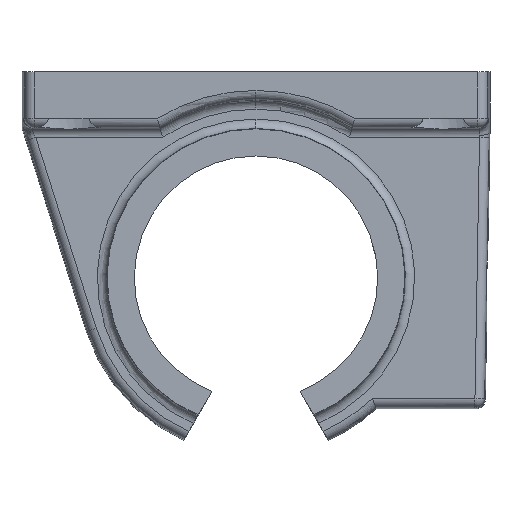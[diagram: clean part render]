
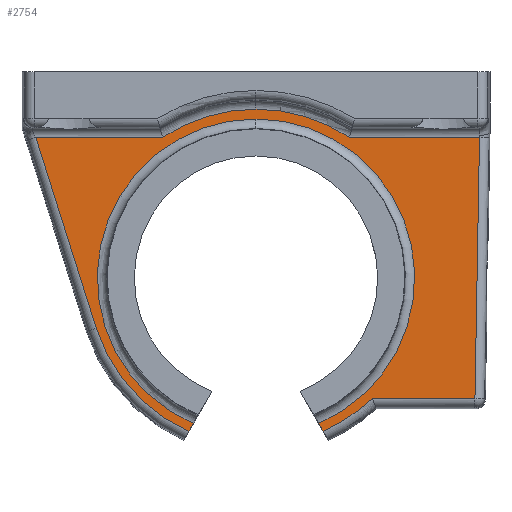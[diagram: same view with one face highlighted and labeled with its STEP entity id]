
A CAD part, front view. The second image highlights one B-rep face of the part: STEP entity #2754.
In plain terms, the highlighted planar face has unit normal (0, -1, 0).
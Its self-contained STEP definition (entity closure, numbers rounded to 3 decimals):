
#1 = CARTESIAN_POINT ( 'NONE',  ( 0., -7.5, -3.552 ) ) ;
#69 = VERTEX_POINT ( 'NONE', #2972 ) ;
#161 = CARTESIAN_POINT ( 'NONE',  ( 0., -7.5, -20.5 ) ) ;
#218 = AXIS2_PLACEMENT_3D ( 'NONE', #1851, #362, #3246 ) ;
#223 = VECTOR ( 'NONE', #1564, 1000. ) ;
#228 = ORIENTED_EDGE ( 'NONE', *, *, #3727, .T. ) ;
#245 = CARTESIAN_POINT ( 'NONE',  ( 0., -7.5, -20.5 ) ) ;
#359 = AXIS2_PLACEMENT_3D ( 'NONE', #2274, #1195, #2627 ) ;
#362 = DIRECTION ( 'NONE',  ( 0., 1., 0. ) ) ;
#368 = CIRCLE ( 'NONE', #2467, 16.948 ) ;
#429 = FACE_OUTER_BOUND ( 'NONE', #1988, .T. ) ;
#453 = VERTEX_POINT ( 'NONE', #3339 ) ;
#528 = ORIENTED_EDGE ( 'NONE', *, *, #3846, .T. ) ;
#529 = EDGE_CURVE ( 'NONE', #2192, #827, #1502, .T. ) ;
#559 = DIRECTION ( 'NONE',  ( 0., 0., 1. ) ) ;
#630 = DIRECTION ( 'NONE',  ( 1., 0., 0. ) ) ;
#681 = CIRCLE ( 'NONE', #3296, 17.886 ) ;
#716 = AXIS2_PLACEMENT_3D ( 'NONE', #1982, #3395, #559 ) ;
#723 = ORIENTED_EDGE ( 'NONE', *, *, #4445, .T. ) ;
#726 = LINE ( 'NONE', #3148, #4237 ) ;
#754 = CARTESIAN_POINT ( 'NONE',  ( 12.404, -7.5, -33.386 ) ) ;
#766 = EDGE_CURVE ( 'NONE', #2014, #4104, #368, .T. ) ;
#827 = VERTEX_POINT ( 'NONE', #2126 ) ;
#841 = DIRECTION ( 'NONE',  ( 0., 0., 1. ) ) ;
#949 = EDGE_CURVE ( 'NONE', #1719, #2901, #3321, .T. ) ;
#975 = LINE ( 'NONE', #3787, #3458 ) ;
#1030 = DIRECTION ( 'NONE',  ( 0.017, 0., 1. ) ) ;
#1079 = VERTEX_POINT ( 'NONE', #1696 ) ;
#1100 = ORIENTED_EDGE ( 'NONE', *, *, #4288, .T. ) ;
#1125 = EDGE_CURVE ( 'NONE', #1589, #2147, #1605, .T. ) ;
#1195 = DIRECTION ( 'NONE',  ( 0., -1., 0. ) ) ;
#1251 = EDGE_CURVE ( 'NONE', #4104, #1079, #3961, .T. ) ;
#1304 = DIRECTION ( 'NONE',  ( -1., 0., 0. ) ) ;
#1326 = ORIENTED_EDGE ( 'NONE', *, *, #949, .T. ) ;
#1490 = CARTESIAN_POINT ( 'NONE',  ( -17.051, -7.5, -25.902 ) ) ;
#1502 = CIRCLE ( 'NONE', #2412, 18. ) ;
#1507 = ORIENTED_EDGE ( 'NONE', *, *, #3723, .T. ) ;
#1529 = ORIENTED_EDGE ( 'NONE', *, *, #2127, .T. ) ;
#1563 = CARTESIAN_POINT ( 'NONE',  ( -17.051, -7.5, -25.902 ) ) ;
#1564 = DIRECTION ( 'NONE',  ( -1., 0., 0. ) ) ;
#1568 = CARTESIAN_POINT ( 'NONE',  ( 0., -7.5, -2.5 ) ) ;
#1586 = DIRECTION ( 'NONE',  ( 0., 0., 1. ) ) ;
#1589 = VERTEX_POINT ( 'NONE', #754 ) ;
#1605 = LINE ( 'NONE', #1629, #3587 ) ;
#1629 = CARTESIAN_POINT ( 'NONE',  ( 24.348, -7.5, -33.386 ) ) ;
#1696 = CARTESIAN_POINT ( 'NONE',  ( 7.164, -7.5, -36.889 ) ) ;
#1719 = VERTEX_POINT ( 'NONE', #2864 ) ;
#1820 = DIRECTION ( 'NONE',  ( 0., -1., 0. ) ) ;
#1851 = CARTESIAN_POINT ( 'NONE',  ( 0., -7.5, -20.5 ) ) ;
#1929 = CIRCLE ( 'NONE', #359, 17.886 ) ;
#1972 = EDGE_CURVE ( 'NONE', #2147, #1719, #726, .T. ) ;
#1982 = CARTESIAN_POINT ( 'NONE',  ( 0., -7.5, -20.5 ) ) ;
#1988 = EDGE_LOOP ( 'NONE', ( #1507, #528, #1100, #2394, #3821, #1529, #4004, #3262, #1326, #3054, #2158, #723, #228 ) ) ;
#2014 = VERTEX_POINT ( 'NONE', #1 ) ;
#2031 = DIRECTION ( 'NONE',  ( 0.5, 0., 0.866 ) ) ;
#2080 = DIRECTION ( 'NONE',  ( 0., 0., 1. ) ) ;
#2115 = EDGE_CURVE ( 'NONE', #2901, #2192, #4163, .T. ) ;
#2126 = CARTESIAN_POINT ( 'NONE',  ( -9.95, -7.5, -5.5 ) ) ;
#2127 = EDGE_CURVE ( 'NONE', #1079, #1589, #1929, .T. ) ;
#2147 = VERTEX_POINT ( 'NONE', #4014 ) ;
#2158 = ORIENTED_EDGE ( 'NONE', *, *, #529, .T. ) ;
#2168 = VECTOR ( 'NONE', #4380, 1000. ) ;
#2186 = PLANE ( 'NONE',  #218 ) ;
#2192 = VERTEX_POINT ( 'NONE', #1568 ) ;
#2240 = LINE ( 'NONE', #1563, #2168 ) ;
#2274 = CARTESIAN_POINT ( 'NONE',  ( 0., -7.5, -20.5 ) ) ;
#2333 = CARTESIAN_POINT ( 'NONE',  ( 9.95, -7.5, -5.5 ) ) ;
#2336 = VERTEX_POINT ( 'NONE', #4583 ) ;
#2381 = CARTESIAN_POINT ( 'NONE',  ( -24.859, -7.5, -5.5 ) ) ;
#2389 = AXIS2_PLACEMENT_3D ( 'NONE', #3630, #1820, #841 ) ;
#2394 = ORIENTED_EDGE ( 'NONE', *, *, #766, .T. ) ;
#2412 = AXIS2_PLACEMENT_3D ( 'NONE', #245, #3862, #4551 ) ;
#2435 = CARTESIAN_POINT ( 'NONE',  ( 0., -7.5, -20.5 ) ) ;
#2467 = AXIS2_PLACEMENT_3D ( 'NONE', #2435, #3858, #2080 ) ;
#2517 = DIRECTION ( 'NONE',  ( 0.5, 0., -0.866 ) ) ;
#2627 = DIRECTION ( 'NONE',  ( 0., 0., 1. ) ) ;
#2754 = ADVANCED_FACE ( 'NONE', ( #429 ), #2186, .F. ) ;
#2864 = CARTESIAN_POINT ( 'NONE',  ( 23.869, -7.5, -5.5 ) ) ;
#2901 = VERTEX_POINT ( 'NONE', #2333 ) ;
#2939 = CARTESIAN_POINT ( 'NONE',  ( 6.692, -7.5, -36.071 ) ) ;
#2972 = CARTESIAN_POINT ( 'NONE',  ( -7.164, -7.5, -36.889 ) ) ;
#3054 = ORIENTED_EDGE ( 'NONE', *, *, #2115, .T. ) ;
#3122 = VECTOR ( 'NONE', #1304, 1000. ) ;
#3148 = CARTESIAN_POINT ( 'NONE',  ( 23.877, -7.5, -5.055 ) ) ;
#3217 = VECTOR ( 'NONE', #2517, 1000. ) ;
#3246 = DIRECTION ( 'NONE',  ( 0., 0., 1. ) ) ;
#3262 = ORIENTED_EDGE ( 'NONE', *, *, #1972, .T. ) ;
#3296 = AXIS2_PLACEMENT_3D ( 'NONE', #161, #3398, #1586 ) ;
#3321 = LINE ( 'NONE', #3649, #223 ) ;
#3339 = CARTESIAN_POINT ( 'NONE',  ( -6.692, -7.5, -36.071 ) ) ;
#3395 = DIRECTION ( 'NONE',  ( 0., 1., 0. ) ) ;
#3398 = DIRECTION ( 'NONE',  ( 0., -1., 0. ) ) ;
#3458 = VECTOR ( 'NONE', #2031, 1000. ) ;
#3587 = VECTOR ( 'NONE', #630, 1000. ) ;
#3598 = CARTESIAN_POINT ( 'NONE',  ( -1.723, -7.5, -21.495 ) ) ;
#3607 = VERTEX_POINT ( 'NONE', #1490 ) ;
#3630 = CARTESIAN_POINT ( 'NONE',  ( 0., -7.5, -20.5 ) ) ;
#3635 = CIRCLE ( 'NONE', #716, 16.948 ) ;
#3649 = CARTESIAN_POINT ( 'NONE',  ( 10.247, -7.5, -5.5 ) ) ;
#3723 = EDGE_CURVE ( 'NONE', #3607, #69, #681, .T. ) ;
#3727 = EDGE_CURVE ( 'NONE', #2336, #3607, #2240, .T. ) ;
#3787 = CARTESIAN_POINT ( 'NONE',  ( 1.723, -7.5, -21.495 ) ) ;
#3821 = ORIENTED_EDGE ( 'NONE', *, *, #1251, .T. ) ;
#3846 = EDGE_CURVE ( 'NONE', #69, #453, #975, .T. ) ;
#3858 = DIRECTION ( 'NONE',  ( 0., 1., 0. ) ) ;
#3862 = DIRECTION ( 'NONE',  ( 0., -1., 0. ) ) ;
#3961 = LINE ( 'NONE', #3598, #3217 ) ;
#4004 = ORIENTED_EDGE ( 'NONE', *, *, #1125, .T. ) ;
#4014 = CARTESIAN_POINT ( 'NONE',  ( 23.382, -7.5, -33.386 ) ) ;
#4104 = VERTEX_POINT ( 'NONE', #2939 ) ;
#4163 = CIRCLE ( 'NONE', #2389, 18. ) ;
#4237 = VECTOR ( 'NONE', #1030, 1000. ) ;
#4288 = EDGE_CURVE ( 'NONE', #453, #2014, #3635, .T. ) ;
#4289 = LINE ( 'NONE', #2381, #3122 ) ;
#4380 = DIRECTION ( 'NONE',  ( 0.302, 0., -0.953 ) ) ;
#4445 = EDGE_CURVE ( 'NONE', #827, #2336, #4289, .T. ) ;
#4551 = DIRECTION ( 'NONE',  ( 0., 0., 1. ) ) ;
#4583 = CARTESIAN_POINT ( 'NONE',  ( -23.515, -7.5, -5.5 ) ) ;
